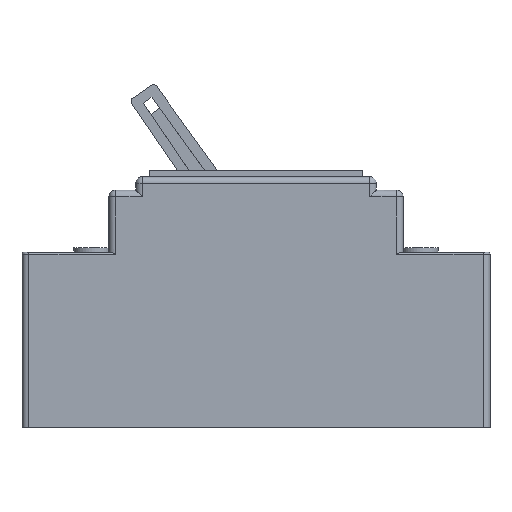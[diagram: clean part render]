
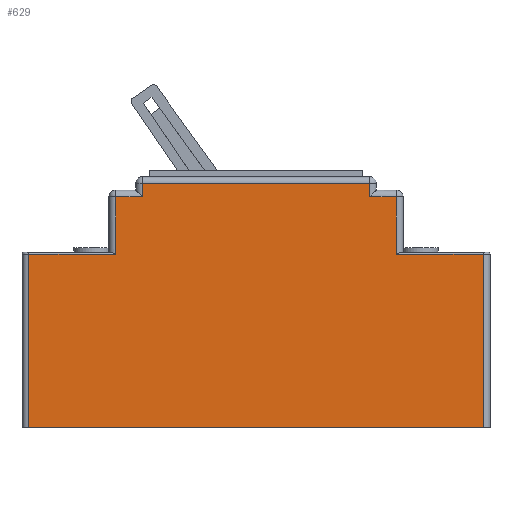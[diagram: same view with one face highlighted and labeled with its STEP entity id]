
A CAD part, left-side view. The second image highlights one B-rep face of the part: STEP entity #629.
In plain terms, the highlighted planar face has unit normal (-1, 0, 0).
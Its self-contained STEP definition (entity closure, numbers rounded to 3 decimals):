
#629=ADVANCED_FACE('',(#1129),#941,.F.);
#941=PLANE('',#6015);
#1129=FACE_OUTER_BOUND('',#1452,.T.);
#1452=EDGE_LOOP('',(#2128,#2129,#2130,#2131,#2132,#2133,#2134,#2135,#2136,
#2137,#2138,#2139));
#2128=ORIENTED_EDGE('',*,*,#4254,.T.);
#2129=ORIENTED_EDGE('',*,*,#4255,.T.);
#2130=ORIENTED_EDGE('',*,*,#4256,.T.);
#2131=ORIENTED_EDGE('',*,*,#4257,.T.);
#2132=ORIENTED_EDGE('',*,*,#4258,.T.);
#2133=ORIENTED_EDGE('',*,*,#4259,.T.);
#2134=ORIENTED_EDGE('',*,*,#4260,.T.);
#2135=ORIENTED_EDGE('',*,*,#4261,.T.);
#2136=ORIENTED_EDGE('',*,*,#4262,.T.);
#2137=ORIENTED_EDGE('',*,*,#4263,.T.);
#2138=ORIENTED_EDGE('',*,*,#4264,.T.);
#2139=ORIENTED_EDGE('',*,*,#4196,.T.);
#3625=VERTEX_POINT('',#8733);
#3626=VERTEX_POINT('',#8735);
#3680=VERTEX_POINT('',#8862);
#3681=VERTEX_POINT('',#8864);
#3682=VERTEX_POINT('',#8866);
#3683=VERTEX_POINT('',#8868);
#3684=VERTEX_POINT('',#8870);
#3685=VERTEX_POINT('',#8872);
#3686=VERTEX_POINT('',#8874);
#3687=VERTEX_POINT('',#8876);
#3688=VERTEX_POINT('',#8878);
#3689=VERTEX_POINT('',#8880);
#4196=EDGE_CURVE('',#3626,#3625,#4933,.T.);
#4254=EDGE_CURVE('',#3625,#3680,#4973,.T.);
#4255=EDGE_CURVE('',#3680,#3681,#4974,.T.);
#4256=EDGE_CURVE('',#3681,#3682,#4975,.T.);
#4257=EDGE_CURVE('',#3682,#3683,#4976,.T.);
#4258=EDGE_CURVE('',#3683,#3684,#4977,.T.);
#4259=EDGE_CURVE('',#3684,#3685,#4978,.T.);
#4260=EDGE_CURVE('',#3685,#3686,#4979,.T.);
#4261=EDGE_CURVE('',#3686,#3687,#4980,.T.);
#4262=EDGE_CURVE('',#3687,#3688,#4981,.T.);
#4263=EDGE_CURVE('',#3688,#3689,#4982,.T.);
#4264=EDGE_CURVE('',#3689,#3626,#4983,.T.);
#4933=LINE('',#8734,#5496);
#4973=LINE('',#8861,#5536);
#4974=LINE('',#8863,#5537);
#4975=LINE('',#8865,#5538);
#4976=LINE('',#8867,#5539);
#4977=LINE('',#8869,#5540);
#4978=LINE('',#8871,#5541);
#4979=LINE('',#8873,#5542);
#4980=LINE('',#8875,#5543);
#4981=LINE('',#8877,#5544);
#4982=LINE('',#8879,#5545);
#4983=LINE('',#8881,#5546);
#5496=VECTOR('',#6850,1.);
#5536=VECTOR('',#6932,1.);
#5537=VECTOR('',#6933,1.);
#5538=VECTOR('',#6934,1.);
#5539=VECTOR('',#6935,1.);
#5540=VECTOR('',#6936,1.);
#5541=VECTOR('',#6937,1.);
#5542=VECTOR('',#6938,1.);
#5543=VECTOR('',#6939,1.);
#5544=VECTOR('',#6940,1.);
#5545=VECTOR('',#6941,1.);
#5546=VECTOR('',#6942,1.);
#6015=AXIS2_PLACEMENT_3D('',#8882,#6943,#6944);
#6850=DIRECTION('',(0.,-1.,0.));
#6932=DIRECTION('',(0.,0.,1.));
#6933=DIRECTION('',(0.,1.,0.));
#6934=DIRECTION('',(0.,0.,1.));
#6935=DIRECTION('',(0.,1.,0.));
#6936=DIRECTION('',(0.,0.,1.));
#6937=DIRECTION('',(0.,1.,0.));
#6938=DIRECTION('',(0.,0.,-1.));
#6939=DIRECTION('',(0.,1.,0.));
#6940=DIRECTION('',(0.,0.,-1.));
#6941=DIRECTION('',(0.,1.,0.));
#6942=DIRECTION('',(0.,0.,-1.));
#6943=DIRECTION('',(1.,0.,0.));
#6944=DIRECTION('',(0.,1.,0.));
#8733=CARTESIAN_POINT('',(-16.,-69.,0.));
#8734=CARTESIAN_POINT('',(-16.,0.,0.));
#8735=CARTESIAN_POINT('',(-16.,-1.,0.));
#8861=CARTESIAN_POINT('',(-16.,-69.,26.2));
#8862=CARTESIAN_POINT('',(-16.,-69.,25.9));
#8863=CARTESIAN_POINT('',(-16.,-56.,25.9));
#8864=CARTESIAN_POINT('',(-16.,-56.,25.9));
#8865=CARTESIAN_POINT('',(-16.,-56.,26.2));
#8866=CARTESIAN_POINT('',(-16.,-56.,34.5));
#8867=CARTESIAN_POINT('',(-16.,-52.,34.5));
#8868=CARTESIAN_POINT('',(-16.,-52.,34.5));
#8869=CARTESIAN_POINT('',(-16.,-52.,26.2));
#8870=CARTESIAN_POINT('',(-16.,-52.,36.5));
#8871=CARTESIAN_POINT('',(-16.,-18.,36.5));
#8872=CARTESIAN_POINT('',(-16.,-18.,36.5));
#8873=CARTESIAN_POINT('',(-16.,-18.,26.2));
#8874=CARTESIAN_POINT('',(-16.,-18.,34.5));
#8875=CARTESIAN_POINT('',(-16.,-14.,34.5));
#8876=CARTESIAN_POINT('',(-16.,-14.,34.5));
#8877=CARTESIAN_POINT('',(-16.,-14.,26.2));
#8878=CARTESIAN_POINT('',(-16.,-14.,25.9));
#8879=CARTESIAN_POINT('',(-16.,-1.,25.9));
#8880=CARTESIAN_POINT('',(-16.,-1.,25.9));
#8881=CARTESIAN_POINT('',(-16.,-1.,26.2));
#8882=CARTESIAN_POINT('',(-16.,0.,26.2));
